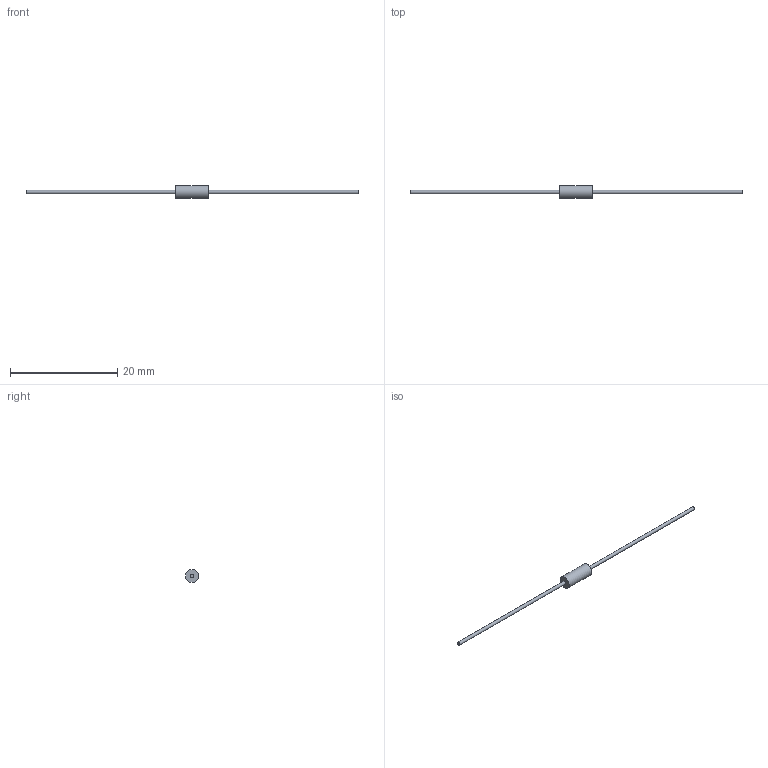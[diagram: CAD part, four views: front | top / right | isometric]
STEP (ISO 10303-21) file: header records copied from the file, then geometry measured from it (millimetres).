
FILE_DESCRIPTION(/* description */ (''),/* implementation_level */ '2;1');
FILE_NAME(/* name */ 'C:\Users\mulla\Documents\SEI Models\Inventor Files\HDM\3D\HDM12.stp',/* time_stamp */ '2019-06-12T12:51:04-04:00',/* author */ ('mulla'),/* organization */ (''),/* preprocessor_version */ 'ST-DEVELOPER v16.1',/* originating_system */ 'Autodesk Inventor 2016',/* authorisation */ '');
FILE_SCHEMA (('AUTOMOTIVE_DESIGN { 1 0 10303 214 3 1 1 }'));
Length unit declared in the file: millimetre
Products named in the file (1): HDM12
Bounding box: 62 x 2.4 x 2.4 mm (x, y, z)
Volume: 43 mm3; surface area: 161 mm2
Topology: 3 solids, 3 shells, 9 faces, 9 edges, 6 vertices
Faces by surface type: plane 6, cylinder 3
Full cylindrical faces by diameter (mm): 0.6 x2, 2.4 x1
Entity records: 186 total; most frequent: DIRECTION 32, CARTESIAN_POINT 22, AXIS2_PLACEMENT_3D 16, EDGE_LOOP 12, ORIENTED_EDGE 12, FACE_OUTER_BOUND 9, ADVANCED_FACE 9, PLANE 6
